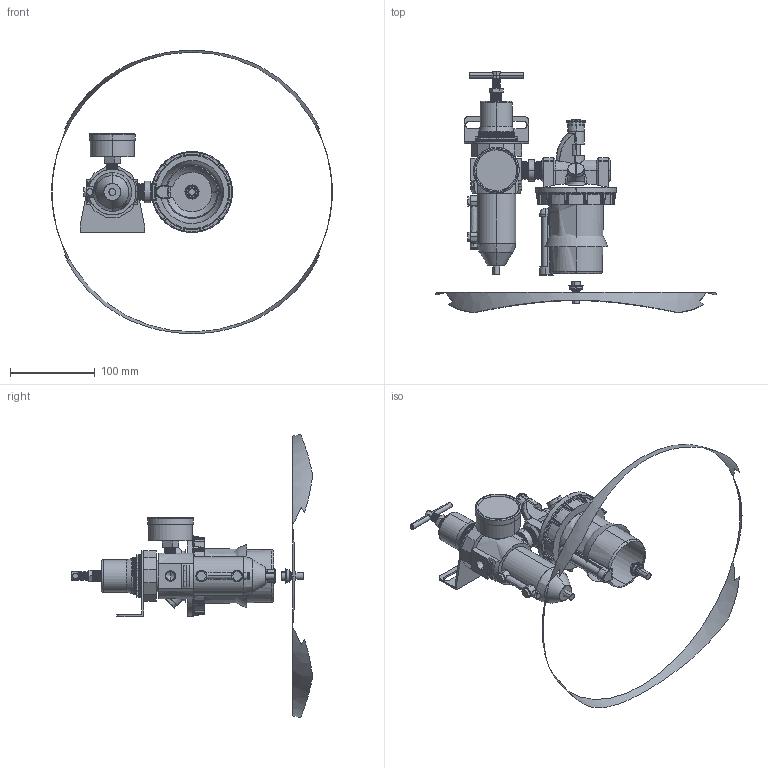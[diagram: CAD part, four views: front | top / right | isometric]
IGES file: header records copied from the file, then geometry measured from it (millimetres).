
Start section: SolidWorks IGES file using analytic representation for surfaces
Global section: file name: D:\Custom\3D繪製\FRL\BL系列\U668W-04#YB#.IGS; native system: SolidWorks 2014; preprocessor: SolidWorks 2014; author: Chieh_Lu; date: 160115.011409; units: millimetre
Bounding box: 331.4 x 284.89 x 334.08 mm (x, y, z)
Surface area: 157022.9 mm2 (no closed solid volume)
Topology: 0 solids, 0 shells, 1241 faces, 15428 edges, 15414 vertices
Faces by surface type: bspline 767, revolution 474
